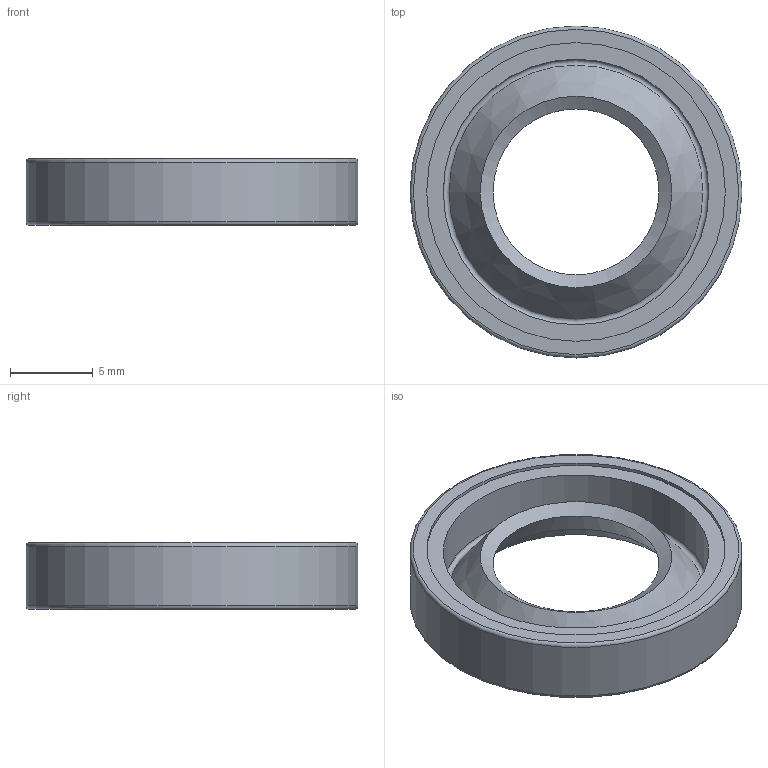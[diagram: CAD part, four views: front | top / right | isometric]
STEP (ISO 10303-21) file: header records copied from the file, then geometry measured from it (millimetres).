
FILE_DESCRIPTION(/* description */ ('오일 실 - 비스프링, 조립 GA'),/* implementation_level */ '2;1');
FILE_NAME(/* name */ '',/* time_stamp */ '2025-01-06T15:37:47+09:00',/* author */ ('jhkim'),/* organization */ (''),/* preprocessor_version */ 'ST-DEVELOPER v20',/* originating_system */ 'Autodesk Inventor 2025',/* authorisation */ '');
FILE_SCHEMA (('AUTOMOTIVE_DESIGN { 1 0 10303 214 3 1 1 }'));
Length unit declared in the file: millimetre
Products named in the file (1): 오일 실 10 20 4
Bounding box: 20 x 20 x 4 mm (x, y, z)
Volume: 597.4 mm3; surface area: 982.5 mm2
Topology: 1 solids, 1 shells, 15 faces, 27 edges, 15 vertices
Faces by surface type: cone 5, torus 4, cylinder 3, plane 3
Full cylindrical faces by diameter (mm): 16 x1, 18 x1, 20 x1
Entity records: 415 total; most frequent: DIRECTION 78, CARTESIAN_POINT 58, ORIENTED_EDGE 54, AXIS2_PLACEMENT_3D 35, EDGE_CURVE 27, CIRCLE 19, EDGE_LOOP 18, FACE_OUTER_BOUND 15
